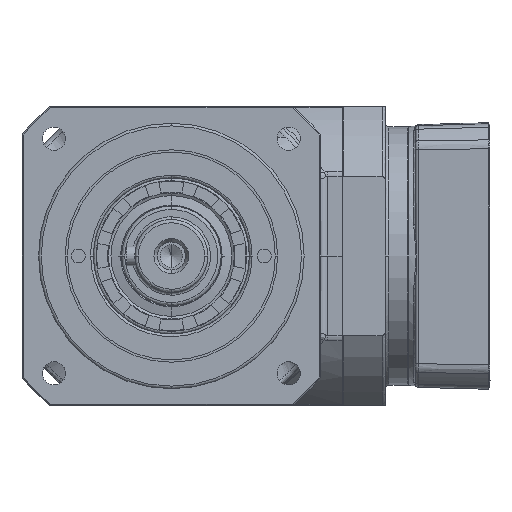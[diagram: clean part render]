
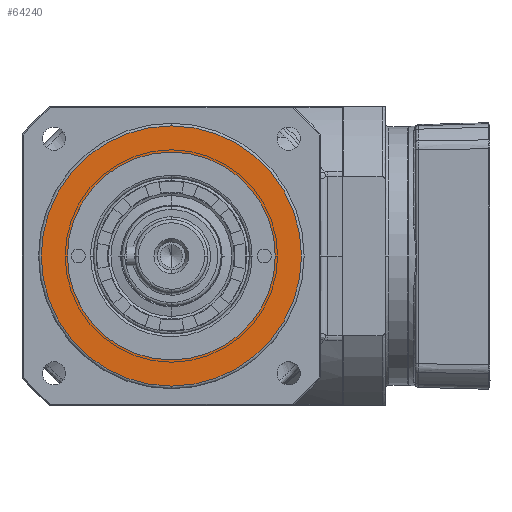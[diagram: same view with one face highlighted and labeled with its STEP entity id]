
A CAD part, left-side view. The second image highlights one B-rep face of the part: STEP entity #64240.
In plain terms, the highlighted planar face has unit normal (-1, 0, 0).
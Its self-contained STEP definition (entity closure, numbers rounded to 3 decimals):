
#163 = CIRCLE ( 'NONE', #14595, 31.3 ) ;
#1512 = CARTESIAN_POINT ( 'NONE',  ( -80.133, 6.807, 129.2 ) ) ;
#1644 = DIRECTION ( 'NONE',  ( -1., 0., 0. ) ) ;
#4819 = CIRCLE ( 'NONE', #57365, 39.2 ) ;
#6896 = EDGE_CURVE ( 'NONE', #23351, #25766, #81227, .T. ) ;
#7319 = CARTESIAN_POINT ( 'NONE',  ( -80.133, 6.807, 50.8 ) ) ;
#10524 = ORIENTED_EDGE ( 'NONE', *, *, #25423, .F. ) ;
#12785 = DIRECTION ( 'NONE',  ( 0., 0., 1. ) ) ;
#13581 = DIRECTION ( 'NONE',  ( 0., -1., 0. ) ) ;
#14595 = AXIS2_PLACEMENT_3D ( 'NONE', #75670, #25447, #50546 ) ;
#15807 = FACE_OUTER_BOUND ( 'NONE', #75618, .T. ) ;
#16452 = ORIENTED_EDGE ( 'NONE', *, *, #17202, .F. ) ;
#17202 = EDGE_CURVE ( 'NONE', #76918, #45882, #163, .T. ) ;
#17725 = CARTESIAN_POINT ( 'NONE',  ( -80.133, 6.807, 90. ) ) ;
#20587 = CARTESIAN_POINT ( 'NONE',  ( -80.133, 6.807, 90. ) ) ;
#22407 = FACE_BOUND ( 'NONE', #73876, .T. ) ;
#23351 = VERTEX_POINT ( 'NONE', #1512 ) ;
#25423 = EDGE_CURVE ( 'NONE', #45882, #76918, #66570, .T. ) ;
#25447 = DIRECTION ( 'NONE',  ( -1., 0., 0. ) ) ;
#25685 = EDGE_CURVE ( 'NONE', #25766, #23351, #4819, .T. ) ;
#25766 = VERTEX_POINT ( 'NONE', #7319 ) ;
#28435 = AXIS2_PLACEMENT_3D ( 'NONE', #20587, #1644, #13581 ) ;
#36601 = DIRECTION ( 'NONE',  ( 0., 0., 1. ) ) ;
#37817 = DIRECTION ( 'NONE',  ( 1., 0., 0. ) ) ;
#39679 = CARTESIAN_POINT ( 'NONE',  ( -80.133, 38.107, 90. ) ) ;
#41442 = AXIS2_PLACEMENT_3D ( 'NONE', #54072, #42152, #72243 ) ;
#42152 = DIRECTION ( 'NONE',  ( 1., 0., 0. ) ) ;
#45882 = VERTEX_POINT ( 'NONE', #72328 ) ;
#50546 = DIRECTION ( 'NONE',  ( 0., -1., 0. ) ) ;
#52795 = ORIENTED_EDGE ( 'NONE', *, *, #25685, .F. ) ;
#54072 = CARTESIAN_POINT ( 'NONE',  ( -80.133, -32.863, 50.33 ) ) ;
#57365 = AXIS2_PLACEMENT_3D ( 'NONE', #67866, #37817, #36601 ) ;
#61537 = AXIS2_PLACEMENT_3D ( 'NONE', #17725, #80345, #12785 ) ;
#64240 = ADVANCED_FACE ( 'NONE', ( #22407, #15807 ), #73433, .F. ) ;
#66570 = CIRCLE ( 'NONE', #28435, 31.3 ) ;
#67866 = CARTESIAN_POINT ( 'NONE',  ( -80.133, 6.807, 90. ) ) ;
#72243 = DIRECTION ( 'NONE',  ( 0., 1., 0. ) ) ;
#72328 = CARTESIAN_POINT ( 'NONE',  ( -80.133, -24.493, 90. ) ) ;
#73196 = ORIENTED_EDGE ( 'NONE', *, *, #6896, .F. ) ;
#73433 = PLANE ( 'NONE',  #41442 ) ;
#73876 = EDGE_LOOP ( 'NONE', ( #10524, #16452 ) ) ;
#75618 = EDGE_LOOP ( 'NONE', ( #73196, #52795 ) ) ;
#75670 = CARTESIAN_POINT ( 'NONE',  ( -80.133, 6.807, 90. ) ) ;
#76918 = VERTEX_POINT ( 'NONE', #39679 ) ;
#80345 = DIRECTION ( 'NONE',  ( 1., 0., 0. ) ) ;
#81227 = CIRCLE ( 'NONE', #61537, 39.2 ) ;
